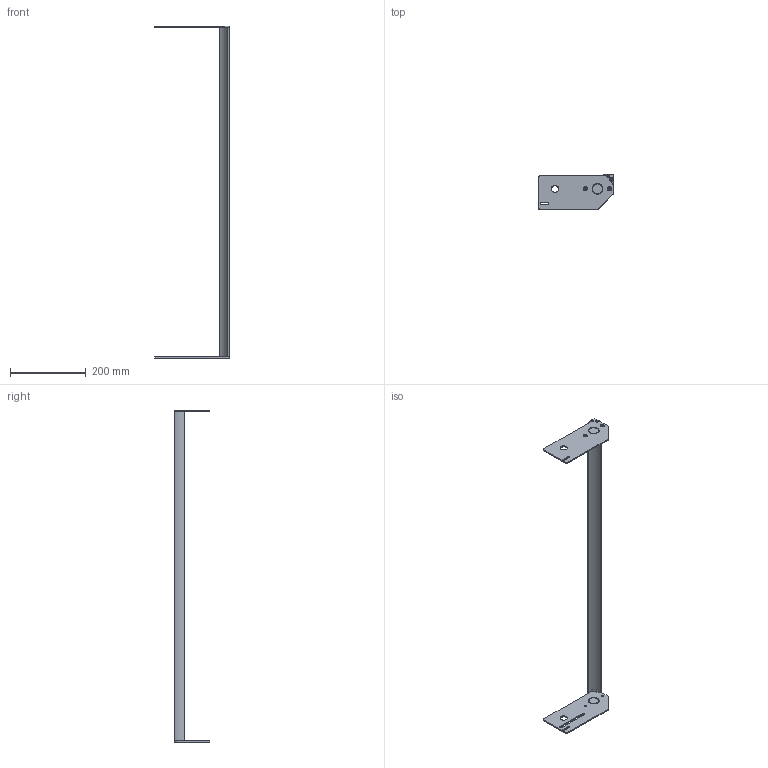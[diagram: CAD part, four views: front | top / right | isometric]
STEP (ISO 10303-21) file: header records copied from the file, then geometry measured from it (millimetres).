
FILE_DESCRIPTION((''),'2;1');
FILE_NAME('351040-34_ASM','2023-03-15T',('jenni.wallner'),(''),'PRO/ENGINEER BY PARAMETRIC TECHNOLOGY CORPORATION, 2012420','PRO/ENGINEER BY PARAMETRIC TECHNOLOGY CORPORATION, 2012420','');
FILE_SCHEMA(('CONFIG_CONTROL_DESIGN'));
Length unit declared in the file: inch
Products named in the file (6): 9304XXM_930410M; 350539-WW_350539-34; 350538; 350537; ASM0001_ASM; 351040-34_ASM
Assembly tree (8 placements, depth 3):
  351040-34_ASM
    ASM0001_ASM
      9304XXM_930410M  x4
      350539-WW_350539-34
      350538
      350537
Bounding box: 196.06 x 92.74 x 875.94 mm (x, y, z)
Volume: 344793 mm3; surface area: 165947.7 mm2
Topology: 7 solids, 7 shells, 216 faces, 536 edges, 334 vertices
Faces by surface type: cylinder 80, plane 76, cone 60
Entity records: 4969 total; most frequent: CARTESIAN_POINT 905, DIRECTION 885, ORIENTED_EDGE 790, EDGE_CURVE 395, AXIS2_PLACEMENT_3D 339, VERTEX_POINT 256, VECTOR 207, LINE 207
